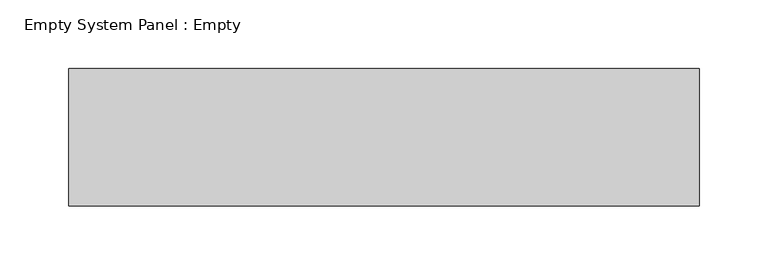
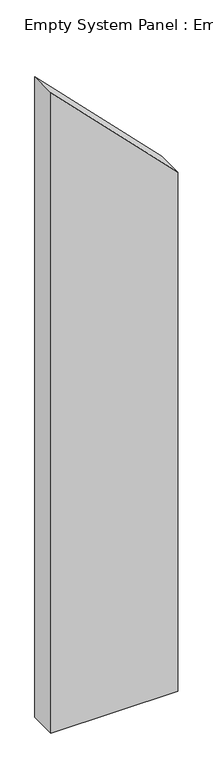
"""IFC4 building model written with IfcOpenShell, lengths in millimetres: plate geometry, Empty System Panel : Empty."""

from ifc_helpers import new_model, si_unit, frame, origin, place, context, project, spatial, polyline, outline, extrude, source, transform, mapped, element, save


def empty_system_panel_empty_6ffdb811(model_context):
    return source(origin(), model_context, "Body", "SweptSolid", [
        extrude(outline(polyline([(0.0, -229.6046705), (0.0, 229.6046705), (1982.5147213, 229.6046705), (2446.8614304, -229.6046705), (0.0, -229.6046705)])), frame((0.0, -50.0, 0.0), z_axis=(0.0, 1.0, 0.0), x_axis=(0.0, 0.0, 1.0)), (0.0, 0.0, 1.0), 100.0),
    ])


if __name__ == "__main__":
    model = new_model("IFC4")
    model_context = context("Model", 3, world=origin())
    ifc_project = project(units=[si_unit("LENGTHUNIT", "METRE", prefix="MILLI")], contexts=[model_context])
    site = spatial("IfcSite", under=ifc_project)
    building = spatial("IfcBuilding", under=site)
    placement = place(None, origin())
    empty_system_panel_empty_shape = empty_system_panel_empty_6ffdb811(model_context)
    element("IfcPlate", 1, ObjectType="Empty System Panel : Empty", at=placement, inside=building, context=model_context, shape_type="MappedRepresentation", body=[
        mapped(empty_system_panel_empty_shape, transform((0.0, 0.0, 0.0), x_axis=(1.0, 0.0, 0.0), y_axis=(0.0, 1.0, 0.0), z_axis=(0.0, 0.0, 1.0))),
    ])
    save(model, "model.ifc")
